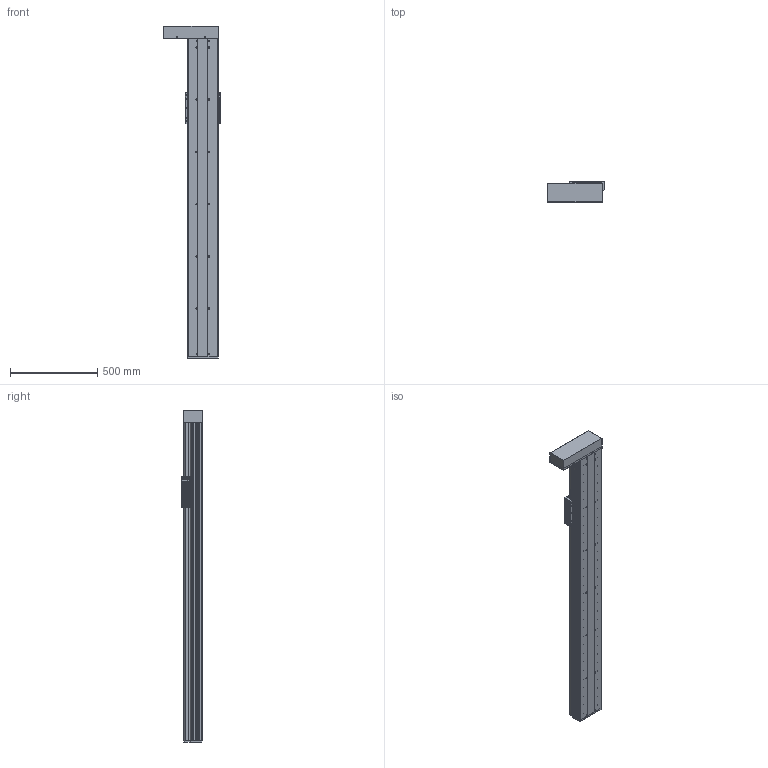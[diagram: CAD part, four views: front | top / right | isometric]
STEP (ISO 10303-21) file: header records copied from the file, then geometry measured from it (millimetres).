
FILE_DESCRIPTION (( 'STEP AP214' ), '1' );
FILE_NAME ('CF175B-C-1550-FWL.STEP', '2020-01-02T01:10:54', ( '微软用户' ), ( '微软中国' ), 'SwSTEP 2.0', 'SolidWorks 2016', '' );
FILE_SCHEMA (( 'AUTOMOTIVE_DESIGN' ));
Length unit declared in the file: millimetre
Products named in the file (12): 肮祭謫欶; 175B殏俔萇儂啣; 175-2同步带从动端固定座; CF175-2賑雄啣; EGR20絳寢-1550; 175B臏倰第-1550; CF175B-1550; CF175-2蹟譫釱; 175-2盓傅釱; 175-2耜啣; CF-EGH20CA賑輸; CF175B-C-1550-FWL
Assembly tree (15 placements, depth 2):
  CF175B-C-1550-FWL
    CF-EGH20CA賑輸  x4
    175-2耜啣
    175-2盓傅釱
    CF175-2蹟譫釱
    CF175B-1550
    175B臏倰第-1550
    EGR20絳寢-1550  x2
    CF175-2賑雄啣
    175-2同步带从动端固定座
    175B殏俔萇儂啣
    肮祭謫欶
Bounding box: 324.5 x 118.3 x 1905 mm (x, y, z)
Volume: 12284237.9 mm3; surface area: 3709943.8 mm2
Topology: 21 solids, 21 shells, 1624 faces, 4145 edges, 2749 vertices
Faces by surface type: cylinder 887, plane 727, cone 8, bspline 2
Entity records: 40054 total; most frequent: DIRECTION 6927, CARTESIAN_POINT 6593, ORIENTED_EDGE 6192, EDGE_CURVE 3096, AXIS2_PLACEMENT_3D 2631, VERTEX_POINT 2057, VECTOR 1665, LINE 1665
